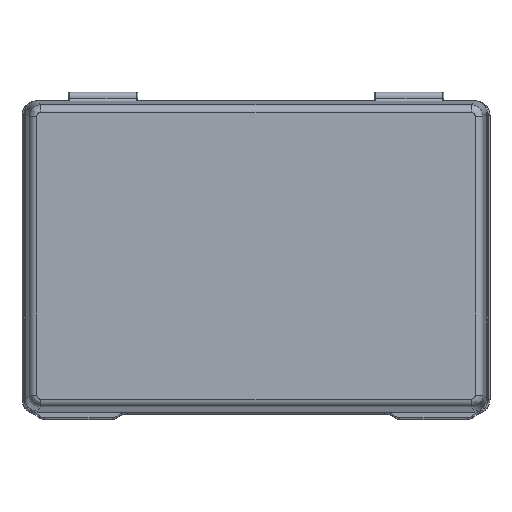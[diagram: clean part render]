
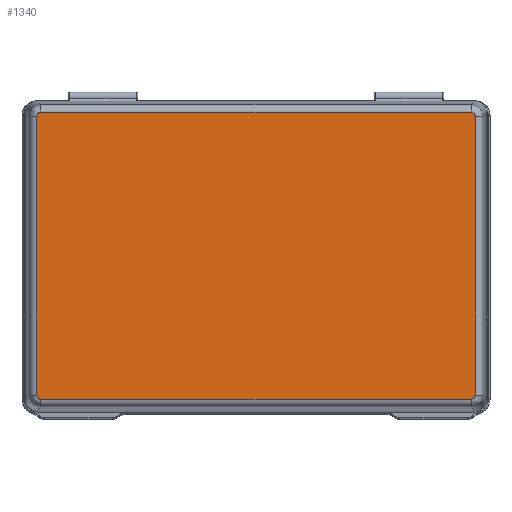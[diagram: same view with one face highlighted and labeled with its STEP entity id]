
A CAD part, top view. The second image highlights one B-rep face of the part: STEP entity #1340.
In plain terms, the highlighted planar face has unit normal (0, 0, 1).
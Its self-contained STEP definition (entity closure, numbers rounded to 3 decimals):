
#858=FACE_OUTER_BOUND('',#1927,.T.);
#1340=ADVANCED_FACE('',(#858),#1640,.F.);
#1640=PLANE('',#8185);
#1927=EDGE_LOOP('',(#3819,#3820,#3821,#3822,#3823,#3824,#3825,#3826));
#2225=ELLIPSE('',#8181,2.507,2.5);
#2226=ELLIPSE('',#8182,2.507,2.5);
#2227=ELLIPSE('',#8183,2.507,2.5);
#2228=ELLIPSE('',#8184,2.507,2.5);
#3819=ORIENTED_EDGE('',*,*,#6265,.T.);
#3820=ORIENTED_EDGE('',*,*,#6266,.T.);
#3821=ORIENTED_EDGE('',*,*,#6267,.T.);
#3822=ORIENTED_EDGE('',*,*,#6268,.T.);
#3823=ORIENTED_EDGE('',*,*,#6269,.T.);
#3824=ORIENTED_EDGE('',*,*,#6270,.T.);
#3825=ORIENTED_EDGE('',*,*,#6271,.T.);
#3826=ORIENTED_EDGE('',*,*,#6272,.T.);
#5361=VERTEX_POINT('',#13422);
#5362=VERTEX_POINT('',#13423);
#5363=VERTEX_POINT('',#13425);
#5364=VERTEX_POINT('',#13427);
#5365=VERTEX_POINT('',#13429);
#5366=VERTEX_POINT('',#13431);
#5367=VERTEX_POINT('',#13433);
#5368=VERTEX_POINT('',#13435);
#6265=EDGE_CURVE('',#5361,#5362,#7066,.T.);
#6266=EDGE_CURVE('',#5362,#5363,#2225,.T.);
#6267=EDGE_CURVE('',#5363,#5364,#7067,.T.);
#6268=EDGE_CURVE('',#5364,#5365,#2226,.T.);
#6269=EDGE_CURVE('',#5365,#5366,#7068,.T.);
#6270=EDGE_CURVE('',#5366,#5367,#2227,.T.);
#6271=EDGE_CURVE('',#5367,#5368,#7069,.T.);
#6272=EDGE_CURVE('',#5368,#5361,#2228,.T.);
#7066=LINE('',#13421,#7533);
#7067=LINE('',#13426,#7534);
#7068=LINE('',#13430,#7535);
#7069=LINE('',#13434,#7536);
#7533=VECTOR('',#9725,1.);
#7534=VECTOR('',#9728,1.);
#7535=VECTOR('',#9731,1.);
#7536=VECTOR('',#9734,1.);
#8181=AXIS2_PLACEMENT_3D('',#13424,#9726,#9727);
#8182=AXIS2_PLACEMENT_3D('',#13428,#9729,#9730);
#8183=AXIS2_PLACEMENT_3D('',#13432,#9732,#9733);
#8184=AXIS2_PLACEMENT_3D('',#13436,#9735,#9736);
#8185=AXIS2_PLACEMENT_3D('',#13437,#9737,#9738);
#9725=DIRECTION('',(0.,1.,0.));
#9726=DIRECTION('',(0.,0.,1.));
#9727=DIRECTION('',(0.707,0.707,0.));
#9728=DIRECTION('',(-1.,0.,0.));
#9729=DIRECTION('',(0.,0.,1.));
#9730=DIRECTION('',(-0.707,0.707,0.));
#9731=DIRECTION('',(0.,-1.,0.));
#9732=DIRECTION('',(0.,0.,1.));
#9733=DIRECTION('',(-0.707,-0.707,0.));
#9734=DIRECTION('',(1.,0.,0.));
#9735=DIRECTION('',(0.,0.,1.));
#9736=DIRECTION('',(0.707,-0.707,0.));
#9737=DIRECTION('',(0.,0.,-1.));
#9738=DIRECTION('',(1.,0.,0.));
#13421=CARTESIAN_POINT('',(143.356,-13.354,26.1));
#13422=CARTESIAN_POINT('',(143.356,-194.306,26.1));
#13423=CARTESIAN_POINT('',(143.356,-13.106,26.1));
#13424=CARTESIAN_POINT('',(140.853,-13.113,26.1));
#13425=CARTESIAN_POINT('',(140.86,-10.609,26.1));
#13426=CARTESIAN_POINT('',(-138.592,-10.609,26.1));
#13427=CARTESIAN_POINT('',(-138.84,-10.609,26.1));
#13428=CARTESIAN_POINT('',(-138.834,-13.113,26.1));
#13429=CARTESIAN_POINT('',(-141.337,-13.106,26.1));
#13430=CARTESIAN_POINT('',(-141.337,-194.058,26.1));
#13431=CARTESIAN_POINT('',(-141.337,-194.306,26.1));
#13432=CARTESIAN_POINT('',(-138.834,-194.299,26.1));
#13433=CARTESIAN_POINT('',(-138.84,-196.802,26.1));
#13434=CARTESIAN_POINT('',(140.611,-196.802,26.1));
#13435=CARTESIAN_POINT('',(140.86,-196.802,26.1));
#13436=CARTESIAN_POINT('',(140.853,-194.299,26.1));
#13437=CARTESIAN_POINT('',(1.01,-2.956,26.1));
